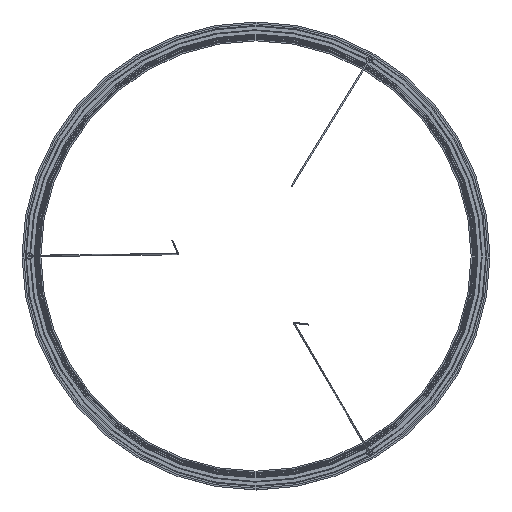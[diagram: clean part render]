
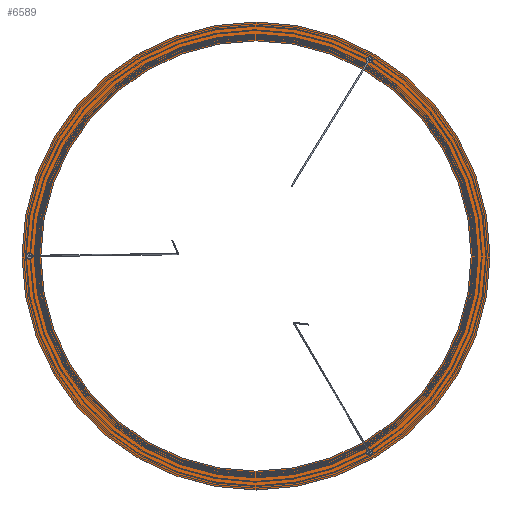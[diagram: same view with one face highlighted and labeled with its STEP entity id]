
A CAD part, top view. The second image highlights one B-rep face of the part: STEP entity #6589.
In plain terms, the highlighted planar face has unit normal (0, 0, 1).
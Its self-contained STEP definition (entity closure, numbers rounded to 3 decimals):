
#191=CIRCLE('',#6844,5.7);
#207=CIRCLE('',#6875,5.7);
#223=CIRCLE('',#6906,5.7);
#344=CIRCLE('',#7141,472.);
#345=CIRCLE('',#7143,434.);
#1808=ORIENTED_EDGE('',*,*,#2261,.T.);
#1809=ORIENTED_EDGE('',*,*,#2295,.T.);
#1810=ORIENTED_EDGE('',*,*,#2329,.T.);
#1811=ORIENTED_EDGE('',*,*,#2468,.F.);
#1812=ORIENTED_EDGE('',*,*,#2469,.T.);
#2261=EDGE_CURVE('',#2724,#2724,#191,.T.);
#2295=EDGE_CURVE('',#2753,#2753,#207,.T.);
#2329=EDGE_CURVE('',#2782,#2782,#223,.T.);
#2468=EDGE_CURVE('',#2906,#2906,#344,.T.);
#2469=EDGE_CURVE('',#2907,#2907,#345,.T.);
#2724=VERTEX_POINT('',#9395);
#2753=VERTEX_POINT('',#9531);
#2782=VERTEX_POINT('',#9667);
#2906=VERTEX_POINT('',#10102);
#2907=VERTEX_POINT('',#10105);
#3382=EDGE_LOOP('',(#1808));
#3383=EDGE_LOOP('',(#1809));
#3384=EDGE_LOOP('',(#1810));
#3385=EDGE_LOOP('',(#1811));
#3386=EDGE_LOOP('',(#1812));
#3899=FACE_BOUND('',#3382,.T.);
#3900=FACE_BOUND('',#3383,.T.);
#3901=FACE_BOUND('',#3384,.T.);
#3902=FACE_BOUND('',#3385,.T.);
#3903=FACE_BOUND('',#3386,.T.);
#4103=PLANE('',#7142);
#6589=ADVANCED_FACE('',(#3899,#3900,#3901,#3902,#3903),#4103,.F.);
#6844=AXIS2_PLACEMENT_3D('',#9394,#7752,#7753);
#6875=AXIS2_PLACEMENT_3D('',#9530,#7820,#7821);
#6906=AXIS2_PLACEMENT_3D('',#9666,#7888,#7889);
#7141=AXIS2_PLACEMENT_3D('',#10101,#8364,#8365);
#7142=AXIS2_PLACEMENT_3D('',#10103,#8366,#8367);
#7143=AXIS2_PLACEMENT_3D('',#10104,#8368,#8369);
#7752=DIRECTION('',(0.,0.,-1.));
#7753=DIRECTION('',(-1.,0.,0.));
#7820=DIRECTION('',(0.,0.,-1.));
#7821=DIRECTION('',(0.,1.,0.));
#7888=DIRECTION('',(0.,0.,-1.));
#7889=DIRECTION('',(-1.,0.,0.));
#8364=DIRECTION('',(0.,0.,-1.));
#8365=DIRECTION('',(-1.,0.,0.));
#8366=DIRECTION('',(0.,0.,-1.));
#8367=DIRECTION('',(-1.,0.,0.));
#8368=DIRECTION('',(0.,0.,-1.));
#8369=DIRECTION('',(-1.,0.,0.));
#9394=CARTESIAN_POINT('',(-457.,0.,18.5));
#9395=CARTESIAN_POINT('',(-462.7,0.,18.5));
#9530=CARTESIAN_POINT('',(228.5,-395.774,18.5));
#9531=CARTESIAN_POINT('',(228.5,-390.074,18.5));
#9666=CARTESIAN_POINT('',(228.5,395.774,18.5));
#9667=CARTESIAN_POINT('',(222.8,395.774,18.5));
#10101=CARTESIAN_POINT('',(0.,0.,18.5));
#10102=CARTESIAN_POINT('',(-472.,0.,18.5));
#10103=CARTESIAN_POINT('',(-434.,0.,18.5));
#10104=CARTESIAN_POINT('',(0.,0.,18.5));
#10105=CARTESIAN_POINT('',(-434.,0.,18.5));
